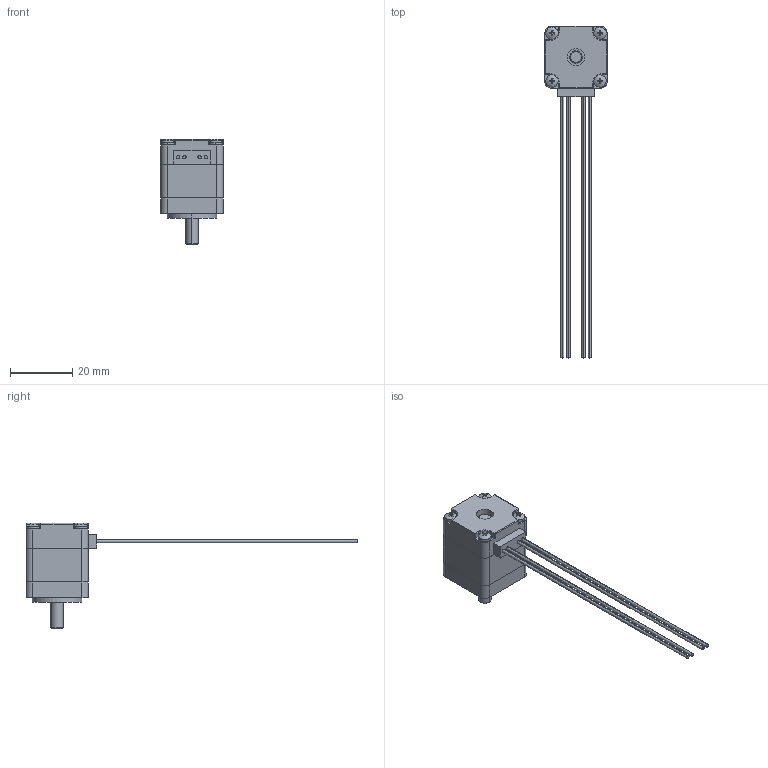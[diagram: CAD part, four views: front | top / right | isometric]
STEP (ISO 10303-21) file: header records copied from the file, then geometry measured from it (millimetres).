
FILE_DESCRIPTION (( 'STEP AP214' ), '1' );
FILE_NAME ('20BYGH224-0204A.STEP', '2020-05-21T07:44:05', ( 'Windows' ), ( 'Microsoft' ), 'SwSTEP 2.0', 'SolidWorks 2015', '' );
FILE_SCHEMA (( 'AUTOMOTIVE_DESIGN' ));
Length unit declared in the file: millimetre
Products named in the file (7): 20BYGH224-0204A; 28A-D9-001; 20B-D9-001; 11.2隅赽; 堤盄; 粣1; M2蹟隊_GB_CROSS_SCREWS_TYPE1 M2X16  H type-N
Assembly tree (9 placements, depth 2):
  20BYGH224-0204A
    28A-D9-001
    20B-D9-001
    11.2隅赽
    堤盄
    粣1
    M2蹟隊_GB_CROSS_SCREWS_TYPE1 M2X16  H type-N  x4
Bounding box: 20 x 106.8 x 33.85 mm (x, y, z)
Volume: 9732.7 mm3; surface area: 7578.6 mm2
Topology: 9 solids, 9 shells, 236 faces, 592 edges, 380 vertices
Faces by surface type: plane 114, cylinder 102, sphere 12, torus 4, cone 4
Entity records: 6990 total; most frequent: CARTESIAN_POINT 896, DIRECTION 896, ORIENTED_EDGE 796, EDGE_CURVE 398, AXIS2_PLACEMENT_3D 342, VERTEX_POINT 254, LINE 212, VECTOR 212
